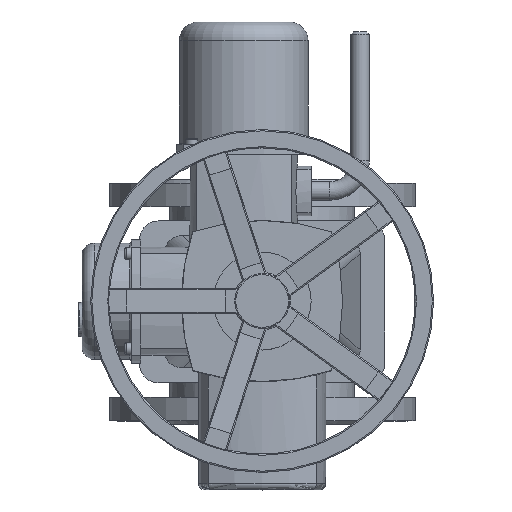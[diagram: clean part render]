
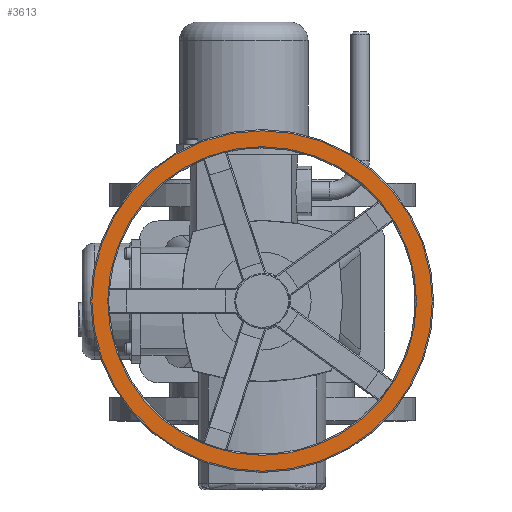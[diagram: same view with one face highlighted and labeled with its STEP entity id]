
A CAD part, top view. The second image highlights one B-rep face of the part: STEP entity #3613.
In plain terms, the highlighted planar face has unit normal (0, 0, 1).
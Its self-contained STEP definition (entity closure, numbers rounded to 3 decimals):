
#3613=ADVANCED_FACE('',(#7894,#7896),#7898,.F.);
#7894=FACE_BOUND('',#7895,.T.);
#7895=EDGE_LOOP('',(#9780));
#7896=FACE_BOUND('',#7897,.T.);
#7897=EDGE_LOOP('',(#9781));
#7898=PLANE('',#7899);
#7899=AXIS2_PLACEMENT_3D('',#7900,#7901,#7902);
#7900=CARTESIAN_POINT('',(0.,0.,531.));
#7901=DIRECTION('',(0.,0.,-1.));
#7902=DIRECTION('',(0.,1.,0.));
#9780=ORIENTED_EDGE('',*,*,#10710,.F.);
#9781=ORIENTED_EDGE('',*,*,#10685,.T.);
#10685=EDGE_CURVE('',#12208,#12208,#12209,.T.);
#10710=EDGE_CURVE('',#12236,#12236,#12237,.T.);
#12208=VERTEX_POINT('',#19960);
#12209=CIRCLE('',#19961,126.);
#12236=VERTEX_POINT('',#20371);
#12237=CIRCLE('',#20372,139.);
#19960=CARTESIAN_POINT('',(0.,126.,531.));
#19961=AXIS2_PLACEMENT_3D('',#19962,#19963,#19964);
#19962=CARTESIAN_POINT('',(0.,0.,531.));
#19963=DIRECTION('',(0.,0.,-1.));
#19964=DIRECTION('',(0.,1.,0.));
#20371=CARTESIAN_POINT('',(0.,139.,531.));
#20372=AXIS2_PLACEMENT_3D('',#20373,#20374,#20375);
#20373=CARTESIAN_POINT('',(0.,0.,531.));
#20374=DIRECTION('',(0.,0.,-1.));
#20375=DIRECTION('',(0.,1.,0.));
